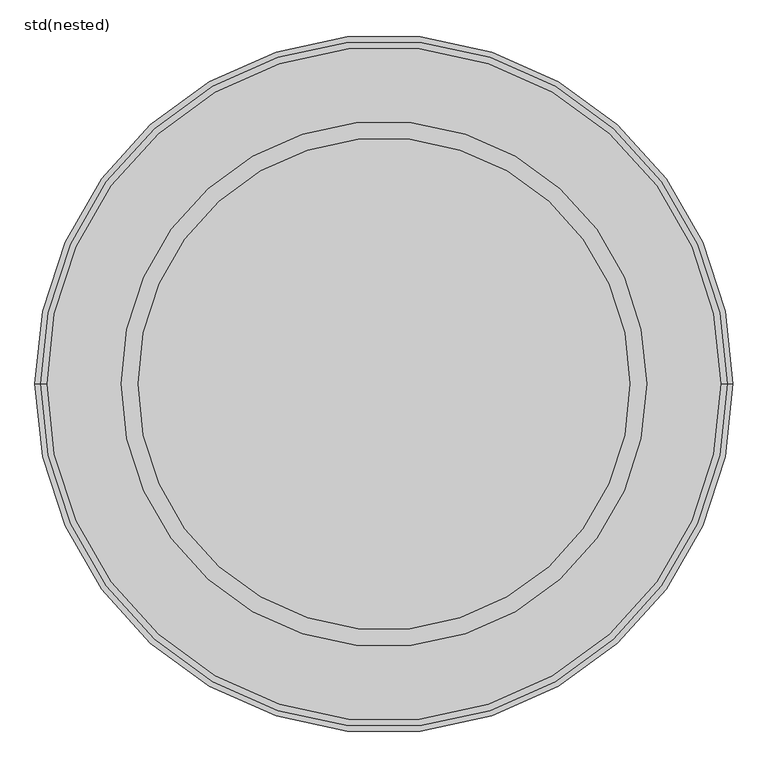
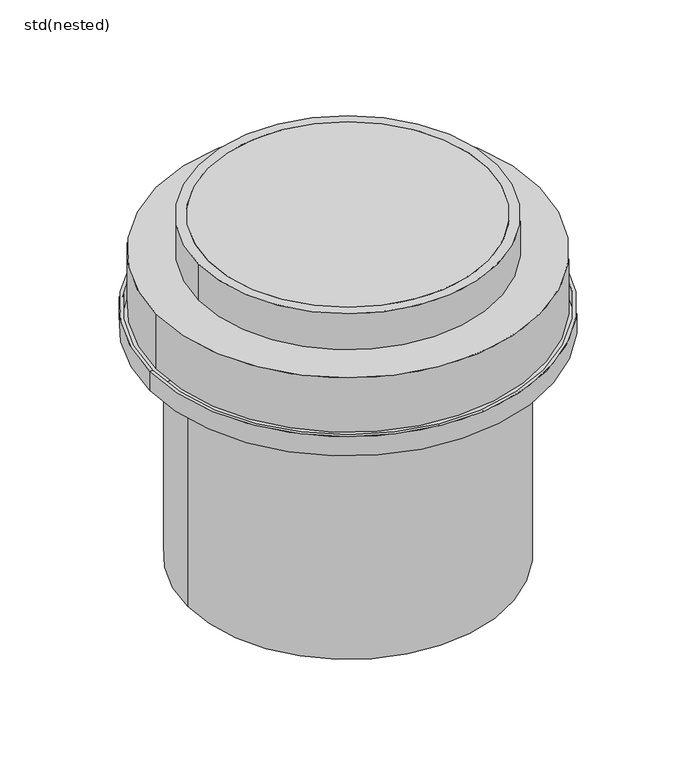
"""IFC4 building model written with IfcOpenShell, lengths in millimetres: unitary equipment geometry, ZZZ_do not use_ME_WPB_top sections_plastic_ACO : std(nested)."""

from ifc_helpers import new_model, si_unit, point, frame, origin, origin_2d, place, context, project, spatial, polyline, circle_curve, trimmed, segment, composite_curve, outline, extrude, source, transform, mapped, element, save
from ifc_brep_helpers import plane_surface, cylinder_surface, revolved_surface, advanced_brep


def std_nested_f2bb9ae7(model_context):
    return source(origin(), model_context, "Body", "SolidModel", [
        advanced_brep(
        [(-510.0, 0.0, -250.0), (510.0, 0.0, -250.0), (518.0, 0.0, -250.0), (-518.0, 0.0, -250.0), (-510.0, 0.0, -295.0), (510.0, 0.0, -295.0), (-410.0, 0.0, -295.0), (410.0, 0.0, -295.0), (-410.0, 0.0, -934.0), (410.0, 0.0, -934.0), (-418.0, 0.0, -934.0), (418.0, 0.0, -934.0), (-418.0, 0.0, -303.0), (418.0, 0.0, -303.0), (-518.0, 0.0, -303.0), (518.0, 0.0, -303.0)],
        [
            (0, 1, circle_curve(frame((0.0, 0.0, -250.0), z_axis=(0.0, 0.0, -1.0), x_axis=(1.0, 0.0, 0.0)), 510.0)),
            (1, 2),
            (2, 3, circle_curve(frame((0.0, 0.0, -250.0), z_axis=(0.0, 0.0, 1.0), x_axis=(1.0, 0.0, 0.0)), 518.0)),
            (3, 0),
            (1, 0, circle_curve(frame((0.0, 0.0, -250.0), z_axis=(0.0, 0.0, -1.0), x_axis=(1.0, 0.0, 0.0)), 510.0)),
            (3, 2, circle_curve(frame((0.0, 0.0, -250.0), z_axis=(0.0, 0.0, 1.0), x_axis=(1.0, 0.0, 0.0)), 518.0)),
            (4, 5, circle_curve(frame((0.0, 0.0, -295.0), z_axis=(0.0, 0.0, -1.0), x_axis=(1.0, 0.0, 0.0)), 510.0)),
            (5, 1),
            (0, 4),
            (5, 4, circle_curve(frame((0.0, 0.0, -295.0), z_axis=(0.0, 0.0, -1.0), x_axis=(1.0, 0.0, 0.0)), 510.0)),
            (6, 7, circle_curve(frame((0.0, 0.0, -295.0), z_axis=(0.0, 0.0, -1.0), x_axis=(1.0, 0.0, 0.0)), 410.0)),
            (7, 5),
            (4, 6),
            (7, 6, circle_curve(frame((0.0, 0.0, -295.0), z_axis=(0.0, 0.0, -1.0), x_axis=(1.0, 0.0, 0.0)), 410.0)),
            (8, 9, circle_curve(frame((0.0, 0.0, -934.0), z_axis=(0.0, 0.0, -1.0), x_axis=(1.0, 0.0, 0.0)), 410.0)),
            (9, 7),
            (6, 8),
            (9, 8, circle_curve(frame((0.0, 0.0, -934.0), z_axis=(0.0, 0.0, -1.0), x_axis=(1.0, 0.0, 0.0)), 410.0)),
            (10, 11, circle_curve(frame((0.0, 0.0, -934.0), z_axis=(0.0, 0.0, -1.0), x_axis=(1.0, 0.0, 0.0)), 418.0)),
            (11, 9),
            (8, 10),
            (11, 10, circle_curve(frame((0.0, 0.0, -934.0), z_axis=(0.0, 0.0, -1.0), x_axis=(1.0, 0.0, 0.0)), 418.0)),
            (12, 13, circle_curve(frame((0.0, 0.0, -303.0), z_axis=(0.0, 0.0, -1.0), x_axis=(1.0, 0.0, 0.0)), 418.0)),
            (13, 11),
            (10, 12),
            (13, 12, circle_curve(frame((0.0, 0.0, -303.0), z_axis=(0.0, 0.0, -1.0), x_axis=(1.0, 0.0, 0.0)), 418.0)),
            (14, 15, circle_curve(frame((0.0, 0.0, -303.0), z_axis=(0.0, 0.0, -1.0), x_axis=(1.0, 0.0, 0.0)), 518.0)),
            (15, 13),
            (12, 14),
            (15, 14, circle_curve(frame((0.0, 0.0, -303.0), z_axis=(0.0, 0.0, -1.0), x_axis=(1.0, 0.0, 0.0)), 518.0)),
            (2, 15),
            (14, 3),
        ],
        [
            plane_surface(frame((0.0, 0.0, -250.0), z_axis=(0.0, 0.0, 1.0), x_axis=(1.0, 0.0, 0.0))),
            revolved_surface(polyline([(510.0, 0.0, -250.0), (510.0, 0.0, -295.0)]), (0.0, 0.0, 240.0), (0.0, 0.0, 1.0)),
            plane_surface(frame((0.0, 0.0, -295.0), z_axis=(0.0, 0.0, 1.0), x_axis=(1.0, 0.0, 0.0))),
            revolved_surface(polyline([(410.0, 0.0, -295.0), (410.0, 0.0, -934.0)]), (0.0, 0.0, 240.0), (0.0, 0.0, 1.0)),
            plane_surface(frame((0.0, 0.0, -934.0), z_axis=(0.0, 0.0, -1.0), x_axis=(1.0, 0.0, 0.0))),
            cylinder_surface(frame((0.0, 0.0, 240.0), z_axis=(0.0, 0.0, 1.0), x_axis=(1.0, 0.0, 0.0)), 418.0),
            plane_surface(frame((0.0, 0.0, -303.0), z_axis=(0.0, 0.0, -1.0), x_axis=(1.0, 0.0, 0.0))),
            cylinder_surface(frame((0.0, 0.0, 240.0), z_axis=(0.0, 0.0, 1.0), x_axis=(1.0, 0.0, 0.0)), 518.0),
        ],
        [
            (0, [[1, 2, 3, 4]]),
            (0, [[5, -4, 6, -2]]),
            (1, [[7, 8, -1, 9]]),
            (1, [[10, -9, -5, -8]]),
            (2, [[11, 12, -7, 13]]),
            (2, [[14, -13, -10, -12]]),
            (3, [[15, 16, -11, 17]]),
            (3, [[18, -17, -14, -16]]),
            (4, [[19, 20, -15, 21]]),
            (4, [[22, -21, -18, -20]]),
            (5, [[23, 24, -19, 25]]),
            (5, [[26, -25, -22, -24]]),
            (6, [[27, 28, -23, 29]]),
            (6, [[30, -29, -26, -28]]),
            (7, [[-3, 31, -27, 32]]),
            (7, [[-6, -32, -30, -31]]),
        ],
    ),
        extrude(outline(composite_curve([segment(trimmed(circle_curve(origin_2d(), 500.0), [point((-500.0, 0.0))], [point((500.0, 0.0))], False, "CARTESIAN"), True, "CONTINUOUS"), segment(trimmed(circle_curve(origin_2d(), 500.0), [point((500.0, 0.0))], [point((-500.0, 0.0))], False, "CARTESIAN"), True, "CONTINUOUS")], self_intersect=False)), frame((0.0, 0.0, -250.0), z_axis=(0.0, 0.0, 1.0), x_axis=(1.0, 0.0, 0.0)), (0.0, 0.0, 1.0), 150.0),
        extrude(outline(composite_curve([segment(trimmed(circle_curve(origin_2d(), 365.0), [point((365.0, 0.0))], [point((-365.0, 0.0))], False, "CARTESIAN"), True, "CONTINUOUS"), segment(trimmed(circle_curve(origin_2d(), 365.0), [point((-365.0, 0.0))], [point((365.0, 0.0))], False, "CARTESIAN"), True, "CONTINUOUS")], self_intersect=False)), frame((0.0, 0.0, -100.0), z_axis=(0.0, 0.0, 1.0), x_axis=(1.0, 0.0, 0.0)), (0.0, 0.0, 1.0), 100.0),
        extrude(outline(composite_curve([segment(trimmed(circle_curve(origin_2d(), 390.0), [point((-390.0, 0.0))], [point((390.0, 0.0))], False, "CARTESIAN"), True, "CONTINUOUS"), segment(trimmed(circle_curve(origin_2d(), 390.0), [point((390.0, 0.0))], [point((-390.0, 0.0))], False, "CARTESIAN"), True, "CONTINUOUS")], self_intersect=False), holes=[composite_curve([segment(trimmed(circle_curve(origin_2d(), 365.0), [point((-365.0, 0.0))], [point((365.0, 0.0))], True, "CARTESIAN"), True, "CONTINUOUS"), segment(trimmed(circle_curve(origin_2d(), 365.0), [point((365.0, 0.0))], [point((-365.0, 0.0))], True, "CARTESIAN"), True, "CONTINUOUS")], self_intersect=False)]), frame((0.0, 0.0, -100.0), z_axis=(0.0, 0.0, 1.0), x_axis=(1.0, 0.0, 0.0)), (0.0, 0.0, 1.0), 100.0),
    ])


if __name__ == "__main__":
    model = new_model("IFC4")
    model_context = context("Model", 3, world=origin())
    ifc_project = project(units=[si_unit("LENGTHUNIT", "METRE", prefix="MILLI")], contexts=[model_context])
    site = spatial("IfcSite", under=ifc_project)
    building = spatial("IfcBuilding", under=site)
    placement = place(None, origin())
    std_nested_shape = std_nested_f2bb9ae7(model_context)
    element("IfcUnitaryEquipment", 1, ObjectType="ZZZ_do not use_ME_WPB_top sections_plastic_ACO : std(nested)", at=placement, inside=building, context=model_context, shape_type="MappedRepresentation", body=[
        mapped(std_nested_shape, transform((0.0, 0.0, 0.0), x_axis=(1.0, 0.0, 0.0), y_axis=(0.0, 1.0, 0.0), z_axis=(0.0, 0.0, 1.0))),
    ])
    save(model, "model.ifc")
